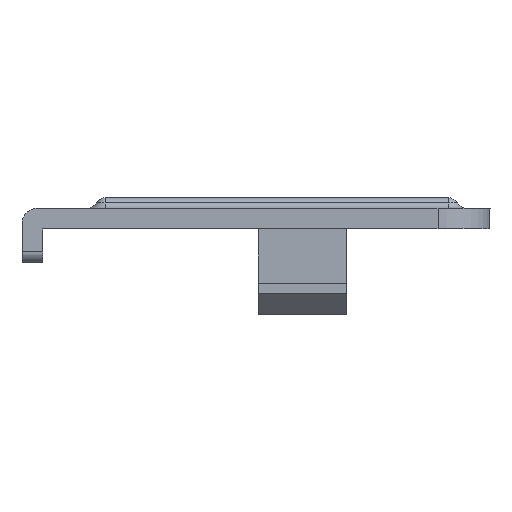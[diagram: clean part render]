
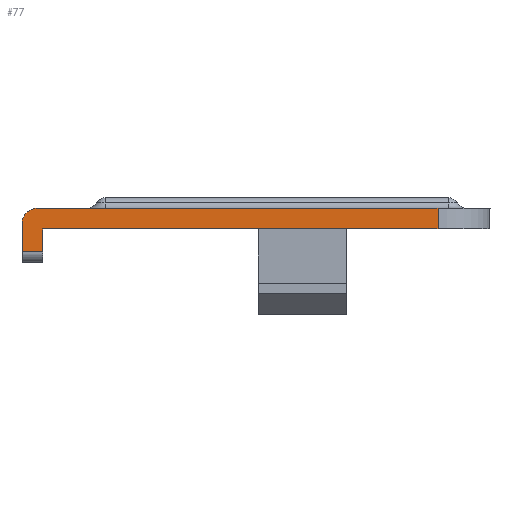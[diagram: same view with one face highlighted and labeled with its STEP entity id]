
A CAD part, left-side view. The second image highlights one B-rep face of the part: STEP entity #77.
In plain terms, the highlighted planar face has unit normal (-1, 0, 0).
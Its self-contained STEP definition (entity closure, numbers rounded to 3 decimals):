
#77 = ADVANCED_FACE ( 'NONE', ( #138 ), #91, .F. ) ;
#91 = PLANE ( 'NONE',  #2226 ) ;
#138 = FACE_OUTER_BOUND ( 'NONE', #1067, .T. ) ;
#196 = CARTESIAN_POINT ( 'NONE',  ( -108.147, 19.56, 285.05 ) ) ;
#266 = VERTEX_POINT ( 'NONE', #1299 ) ;
#295 = CARTESIAN_POINT ( 'NONE',  ( -108.147, 63.06, 287.05 ) ) ;
#342 = ORIENTED_EDGE ( 'NONE', *, *, #1816, .F. ) ;
#426 = CARTESIAN_POINT ( 'NONE',  ( -108.147, 24.56, 285.05 ) ) ;
#427 = EDGE_CURVE ( 'NONE', #2921, #2726, #1495, .T. ) ;
#526 = LINE ( 'NONE', #1649, #1657 ) ;
#544 = ORIENTED_EDGE ( 'NONE', *, *, #1932, .F. ) ;
#548 = DIRECTION ( 'NONE',  ( 0., 1., 0. ) ) ;
#552 = VERTEX_POINT ( 'NONE', #2579 ) ;
#645 = DIRECTION ( 'NONE',  ( 1., 0., 0. ) ) ;
#648 = ORIENTED_EDGE ( 'NONE', *, *, #822, .F. ) ;
#714 = CARTESIAN_POINT ( 'NONE',  ( -108.147, 62.56, 285.05 ) ) ;
#789 = EDGE_CURVE ( 'NONE', #2074, #2921, #1273, .T. ) ;
#806 = LINE ( 'NONE', #2712, #2199 ) ;
#807 = VERTEX_POINT ( 'NONE', #426 ) ;
#822 = EDGE_CURVE ( 'NONE', #807, #2566, #1663, .T. ) ;
#885 = VECTOR ( 'NONE', #2558, 1000. ) ;
#936 = ORIENTED_EDGE ( 'NONE', *, *, #427, .F. ) ;
#947 = CARTESIAN_POINT ( 'NONE',  ( -108.147, 64.56, 287.05 ) ) ;
#967 = ORIENTED_EDGE ( 'NONE', *, *, #1043, .F. ) ;
#969 = DIRECTION ( 'NONE',  ( 1., 0., 0. ) ) ;
#1043 = EDGE_CURVE ( 'NONE', #266, #552, #1844, .T. ) ;
#1067 = EDGE_LOOP ( 'NONE', ( #544, #648, #2357, #936, #1647, #342, #967 ) ) ;
#1152 = CARTESIAN_POINT ( 'NONE',  ( -108.147, 62.56, 287.05 ) ) ;
#1208 = DIRECTION ( 'NONE',  ( 0., 1., 0. ) ) ;
#1273 = CIRCLE ( 'NONE', #2359, 1.5 ) ;
#1299 = CARTESIAN_POINT ( 'NONE',  ( -108.147, 62.56, 282.85 ) ) ;
#1467 = EDGE_CURVE ( 'NONE', #2726, #807, #526, .T. ) ;
#1495 = LINE ( 'NONE', #947, #885 ) ;
#1640 = DIRECTION ( 'NONE',  ( 0., 0., -1. ) ) ;
#1647 = ORIENTED_EDGE ( 'NONE', *, *, #789, .F. ) ;
#1649 = CARTESIAN_POINT ( 'NONE',  ( -108.147, 24.56, 287.05 ) ) ;
#1657 = VECTOR ( 'NONE', #1640, 1000. ) ;
#1663 = LINE ( 'NONE', #196, #1698 ) ;
#1677 = CARTESIAN_POINT ( 'NONE',  ( -108.147, 64.56, 287.05 ) ) ;
#1694 = VECTOR ( 'NONE', #2977, 1000. ) ;
#1698 = VECTOR ( 'NONE', #2253, 1000. ) ;
#1766 = CARTESIAN_POINT ( 'NONE',  ( -108.147, 63.06, 285.55 ) ) ;
#1816 = EDGE_CURVE ( 'NONE', #552, #2074, #806, .T. ) ;
#1844 = LINE ( 'NONE', #1915, #2136 ) ;
#1915 = CARTESIAN_POINT ( 'NONE',  ( -108.147, 64.56, 282.85 ) ) ;
#1932 = EDGE_CURVE ( 'NONE', #2566, #266, #2636, .T. ) ;
#1950 = CARTESIAN_POINT ( 'NONE',  ( -108.147, 24.56, 287.05 ) ) ;
#2074 = VERTEX_POINT ( 'NONE', #2346 ) ;
#2136 = VECTOR ( 'NONE', #548, 1000. ) ;
#2199 = VECTOR ( 'NONE', #2495, 1000. ) ;
#2226 = AXIS2_PLACEMENT_3D ( 'NONE', #1677, #969, #1208 ) ;
#2253 = DIRECTION ( 'NONE',  ( 0., 1., 0. ) ) ;
#2346 = CARTESIAN_POINT ( 'NONE',  ( -108.147, 64.56, 285.55 ) ) ;
#2357 = ORIENTED_EDGE ( 'NONE', *, *, #1467, .F. ) ;
#2359 = AXIS2_PLACEMENT_3D ( 'NONE', #1766, #645, #2475 ) ;
#2475 = DIRECTION ( 'NONE',  ( 0., -1., 0. ) ) ;
#2495 = DIRECTION ( 'NONE',  ( 0., 0., 1. ) ) ;
#2558 = DIRECTION ( 'NONE',  ( 0., -1., 0. ) ) ;
#2566 = VERTEX_POINT ( 'NONE', #714 ) ;
#2579 = CARTESIAN_POINT ( 'NONE',  ( -108.147, 64.56, 282.85 ) ) ;
#2636 = LINE ( 'NONE', #1152, #1694 ) ;
#2712 = CARTESIAN_POINT ( 'NONE',  ( -108.147, 64.56, 287.05 ) ) ;
#2726 = VERTEX_POINT ( 'NONE', #1950 ) ;
#2921 = VERTEX_POINT ( 'NONE', #295 ) ;
#2977 = DIRECTION ( 'NONE',  ( 0., 0., -1. ) ) ;
